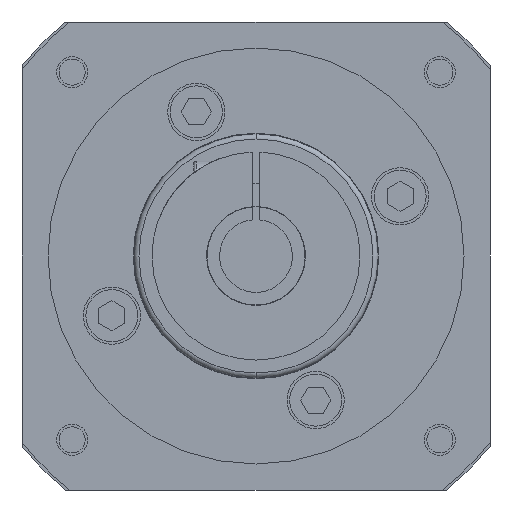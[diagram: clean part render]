
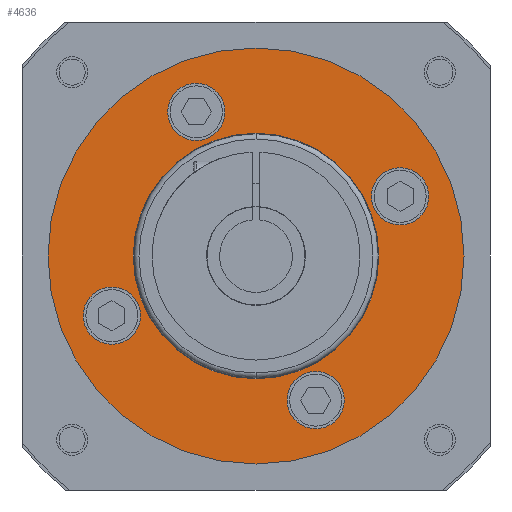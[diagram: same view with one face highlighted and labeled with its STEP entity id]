
A CAD part, left-side view. The second image highlights one B-rep face of the part: STEP entity #4636.
In plain terms, the highlighted planar face has unit normal (-1, 0, 0).
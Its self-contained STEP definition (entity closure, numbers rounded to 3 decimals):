
#954=CARTESIAN_POINT('',(-175.6,0.,0.));
#955=DIRECTION('',(-1.,0.,0.));
#956=DIRECTION('',(0.,0.,-1.));
#957=AXIS2_PLACEMENT_3D('',#954,#955,#956);
#959=CARTESIAN_POINT('',(-175.6,0.,0.));
#960=DIRECTION('',(1.,0.,0.));
#961=DIRECTION('',(0.,0.,-1.));
#962=AXIS2_PLACEMENT_3D('',#959,#960,#961);
#964=CARTESIAN_POINT('',(-175.6,-11.481,-27.716));
#965=DIRECTION('',(-1.,0.,0.));
#966=DIRECTION('',(0.,1.,0.));
#967=AXIS2_PLACEMENT_3D('',#964,#965,#966);
#969=CARTESIAN_POINT('',(-175.6,-11.481,-27.716));
#970=DIRECTION('',(-1.,0.,0.));
#971=DIRECTION('',(0.,-1.,0.));
#972=AXIS2_PLACEMENT_3D('',#969,#970,#971);
#974=CARTESIAN_POINT('',(-175.6,27.716,-11.481));
#975=DIRECTION('',(-1.,0.,0.));
#976=DIRECTION('',(0.,1.,0.));
#977=AXIS2_PLACEMENT_3D('',#974,#975,#976);
#979=CARTESIAN_POINT('',(-175.6,27.716,-11.481));
#980=DIRECTION('',(-1.,0.,0.));
#981=DIRECTION('',(0.,-1.,0.));
#982=AXIS2_PLACEMENT_3D('',#979,#980,#981);
#984=CARTESIAN_POINT('',(-175.6,11.481,27.716));
#985=DIRECTION('',(-1.,0.,0.));
#986=DIRECTION('',(0.,1.,0.));
#987=AXIS2_PLACEMENT_3D('',#984,#985,#986);
#989=CARTESIAN_POINT('',(-175.6,11.481,27.716));
#990=DIRECTION('',(-1.,0.,0.));
#991=DIRECTION('',(0.,-1.,0.));
#992=AXIS2_PLACEMENT_3D('',#989,#990,#991);
#994=CARTESIAN_POINT('',(-175.6,-27.716,11.481));
#995=DIRECTION('',(-1.,0.,0.));
#996=DIRECTION('',(0.,1.,0.));
#997=AXIS2_PLACEMENT_3D('',#994,#995,#996);
#999=CARTESIAN_POINT('',(-175.6,-27.716,11.481));
#1000=DIRECTION('',(-1.,0.,0.));
#1001=DIRECTION('',(0.,-1.,0.));
#1002=AXIS2_PLACEMENT_3D('',#999,#1000,#1001);
#1004=CARTESIAN_POINT('',(-175.6,0.,0.));
#1005=DIRECTION('',(1.,0.,0.));
#1006=DIRECTION('',(0.,0.,-1.));
#1007=AXIS2_PLACEMENT_3D('',#1004,#1005,#1006);
#1017=CARTESIAN_POINT('',(-175.6,0.,0.));
#1018=DIRECTION('',(-1.,0.,0.));
#1019=DIRECTION('',(0.,0.,-1.));
#1020=AXIS2_PLACEMENT_3D('',#1017,#1018,#1019);
#3025=CARTESIAN_POINT('',(-175.6,22.216,-11.481));
#3027=VERTEX_POINT('',#3025);
#3029=CARTESIAN_POINT('',(-175.6,-22.216,11.481));
#3031=VERTEX_POINT('',#3029);
#3178=CARTESIAN_POINT('',(-175.6,0.,-40.));
#3180=VERTEX_POINT('',#3178);
#3181=CARTESIAN_POINT('',(-175.6,0.,-23.6));
#3183=VERTEX_POINT('',#3181);
#3186=CARTESIAN_POINT('',(-175.6,0.,40.));
#3188=VERTEX_POINT('',#3186);
#3189=CARTESIAN_POINT('',(-175.6,0.,23.6));
#3191=VERTEX_POINT('',#3189);
#3201=CARTESIAN_POINT('',(-175.6,-5.981,-27.716));
#3202=CARTESIAN_POINT('',(-175.6,-16.981,-27.716));
#3203=VERTEX_POINT('',#3201);
#3204=VERTEX_POINT('',#3202);
#3205=CARTESIAN_POINT('',(-175.6,33.216,-11.481));
#3206=VERTEX_POINT('',#3205);
#3207=CARTESIAN_POINT('',(-175.6,16.981,27.716));
#3208=CARTESIAN_POINT('',(-175.6,5.981,27.716));
#3209=VERTEX_POINT('',#3207);
#3210=VERTEX_POINT('',#3208);
#3211=CARTESIAN_POINT('',(-175.6,-33.216,11.481));
#3212=VERTEX_POINT('',#3211);
#4597=CARTESIAN_POINT('',(-175.6,0.,0.));
#4598=DIRECTION('',(1.,0.,0.));
#4599=DIRECTION('',(0.,0.,1.));
#4600=AXIS2_PLACEMENT_3D('',#4597,#4598,#4599);
#4601=PLANE('',#4600);
#4602=ORIENTED_EDGE('',*,*,#4590,.F.);
#4603=ORIENTED_EDGE('',*,*,#4579,.T.);
#4604=EDGE_LOOP('',(#4602,#4603));
#4605=FACE_OUTER_BOUND('',#4604,.F.);
#4607=ORIENTED_EDGE('',*,*,#4606,.F.);
#4609=ORIENTED_EDGE('',*,*,#4608,.T.);
#4610=EDGE_LOOP('',(#4607,#4609));
#4611=FACE_BOUND('',#4610,.F.);
#4613=ORIENTED_EDGE('',*,*,#4612,.T.);
#4615=ORIENTED_EDGE('',*,*,#4614,.T.);
#4616=EDGE_LOOP('',(#4613,#4615));
#4617=FACE_BOUND('',#4616,.F.);
#4619=ORIENTED_EDGE('',*,*,#4618,.T.);
#4621=ORIENTED_EDGE('',*,*,#4620,.T.);
#4622=EDGE_LOOP('',(#4619,#4621));
#4623=FACE_BOUND('',#4622,.F.);
#4625=ORIENTED_EDGE('',*,*,#4624,.T.);
#4627=ORIENTED_EDGE('',*,*,#4626,.T.);
#4628=EDGE_LOOP('',(#4625,#4627));
#4629=FACE_BOUND('',#4628,.F.);
#4631=ORIENTED_EDGE('',*,*,#4630,.T.);
#4633=ORIENTED_EDGE('',*,*,#4632,.T.);
#4634=EDGE_LOOP('',(#4631,#4633));
#4635=FACE_BOUND('',#4634,.F.);
#958=CIRCLE('',#957,40.);
#963=CIRCLE('',#962,40.);
#968=CIRCLE('',#967,5.5);
#973=CIRCLE('',#972,5.5);
#978=CIRCLE('',#977,5.5);
#983=CIRCLE('',#982,5.5);
#988=CIRCLE('',#987,5.5);
#993=CIRCLE('',#992,5.5);
#998=CIRCLE('',#997,5.5);
#1003=CIRCLE('',#1002,5.5);
#1008=CIRCLE('',#1007,23.6);
#1021=CIRCLE('',#1020,23.6);
#4579=EDGE_CURVE('',#3180,#3188,#963,.T.);
#4590=EDGE_CURVE('',#3180,#3188,#958,.T.);
#4606=EDGE_CURVE('',#3183,#3191,#1008,.T.);
#4608=EDGE_CURVE('',#3183,#3191,#1021,.T.);
#4612=EDGE_CURVE('',#3203,#3204,#968,.T.);
#4614=EDGE_CURVE('',#3204,#3203,#973,.T.);
#4618=EDGE_CURVE('',#3206,#3027,#978,.T.);
#4620=EDGE_CURVE('',#3027,#3206,#983,.T.);
#4624=EDGE_CURVE('',#3209,#3210,#988,.T.);
#4626=EDGE_CURVE('',#3210,#3209,#993,.T.);
#4630=EDGE_CURVE('',#3031,#3212,#998,.T.);
#4632=EDGE_CURVE('',#3212,#3031,#1003,.T.);
#4636=ADVANCED_FACE('',(#4605,#4611,#4617,#4623,#4629,#4635),#4601,.F.);
